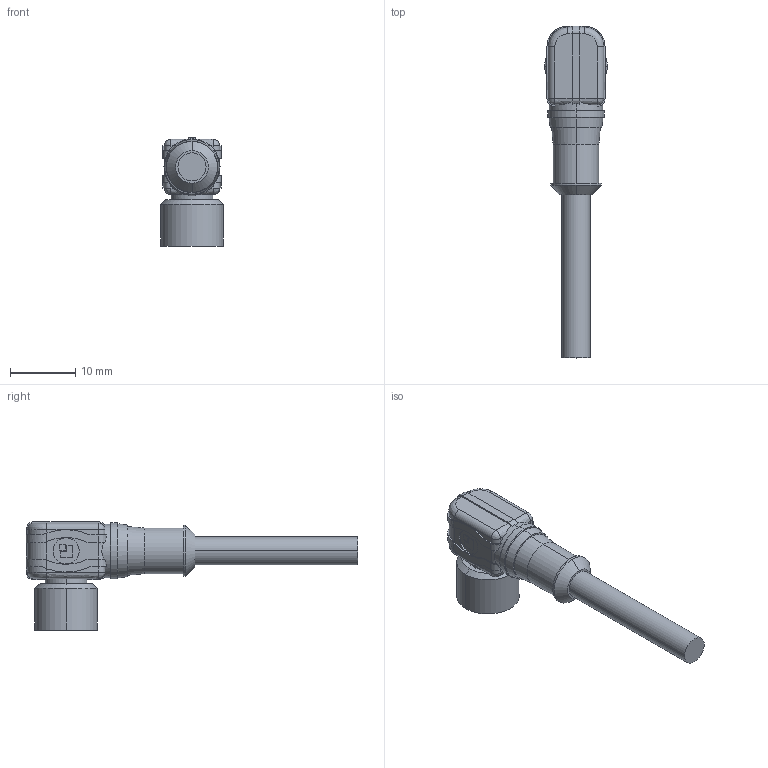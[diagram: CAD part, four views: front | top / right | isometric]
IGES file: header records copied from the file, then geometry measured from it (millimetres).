
Start section: Elysium IGES Interface
Global section: file name: C:\Data\JobServerData\JobServer Files\65cb98e5-8d5b-4f56-bb43-fecff9871484\work\output\model.igs; native system: PTC Creo Elements/Direct Modeling 19.0B  21-Mar-2015; preprocessor: Creo Element/Direct IGES_3D V2.2; author: Unknown; organization: Unknown; date: 20190122.143948; units: millimetre
Bounding box: 9.6 x 50.9 x 16.6 mm (x, y, z)
Volume: 2191.6 mm3; surface area: 1759 mm2
Topology: 1 solids, 1 shells, 215 faces, 560 edges, 360 vertices
Faces by surface type: bspline 215
